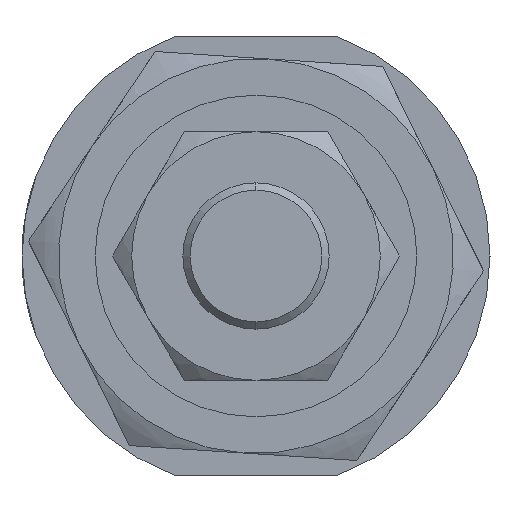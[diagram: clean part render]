
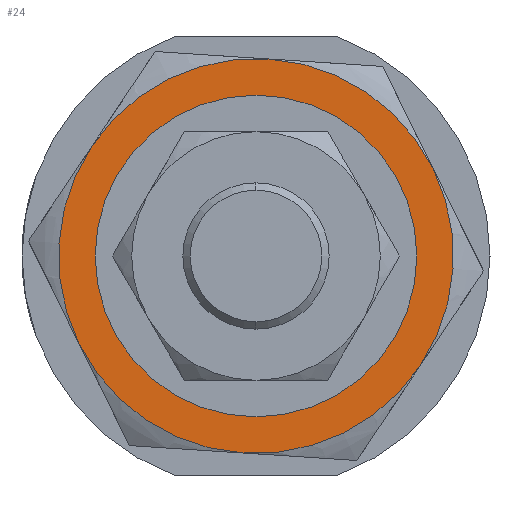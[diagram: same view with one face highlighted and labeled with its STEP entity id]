
A CAD part, left-side view. The second image highlights one B-rep face of the part: STEP entity #24.
In plain terms, the highlighted planar face has unit normal (-1, 0, 0) as drawn and (0, 0, -1) by its records, which use the part's own axes.
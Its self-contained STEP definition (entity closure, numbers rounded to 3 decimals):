
#8 = DIRECTION ( 'NONE',  ( 0., 0., 1. ) ) ;
#16 = ORIENTED_EDGE ( 'NONE', *, *, #1405, .F. ) ;
#21 = EDGE_CURVE ( 'NONE', #2953, #1337, #2882, .T. ) ;
#24 = ADVANCED_FACE ( 'NONE', ( #1241, #1309 ), #1019, .F. ) ;
#40 = CARTESIAN_POINT ( 'NONE',  ( 0., 0., -5. ) ) ;
#48 = ORIENTED_EDGE ( 'NONE', *, *, #198, .F. ) ;
#198 = EDGE_CURVE ( 'NONE', #446, #2953, #536, .T. ) ;
#201 = CARTESIAN_POINT ( 'NONE',  ( 0., 0., -5. ) ) ;
#215 = AXIS2_PLACEMENT_3D ( 'NONE', #804, #794, #1972 ) ;
#227 = CARTESIAN_POINT ( 'NONE',  ( 0., 0., -5. ) ) ;
#294 = CARTESIAN_POINT ( 'NONE',  ( -10., 0., -5. ) ) ;
#312 = DIRECTION ( 'NONE',  ( 1., 0., 0. ) ) ;
#389 = AXIS2_PLACEMENT_3D ( 'NONE', #2190, #790, #566 ) ;
#407 = CIRCLE ( 'NONE', #2964, 13.5 ) ;
#424 = DIRECTION ( 'NONE',  ( 1., 0., 0. ) ) ;
#446 = VERTEX_POINT ( 'NONE', #558 ) ;
#469 = DIRECTION ( 'NONE',  ( 0., 0., 1. ) ) ;
#504 = CARTESIAN_POINT ( 'NONE',  ( 0., 0., -5. ) ) ;
#534 = CARTESIAN_POINT ( 'NONE',  ( 0., 0., -5. ) ) ;
#536 = CIRCLE ( 'NONE', #1521, 13.5 ) ;
#544 = DIRECTION ( 'NONE',  ( 1., 0., 0. ) ) ;
#553 = CARTESIAN_POINT ( 'NONE',  ( -6.75, 11.691, -5. ) ) ;
#558 = CARTESIAN_POINT ( 'NONE',  ( -13.5, 0., -5. ) ) ;
#566 = DIRECTION ( 'NONE',  ( 1., 0., 0. ) ) ;
#617 = CIRCLE ( 'NONE', #1280, 13.5 ) ;
#623 = CARTESIAN_POINT ( 'NONE',  ( -6.75, -11.691, -5. ) ) ;
#660 = DIRECTION ( 'NONE',  ( 0., 0., 1. ) ) ;
#790 = DIRECTION ( 'NONE',  ( 0., 0., 1. ) ) ;
#794 = DIRECTION ( 'NONE',  ( 0., 0., 1. ) ) ;
#804 = CARTESIAN_POINT ( 'NONE',  ( 0., 0., -5. ) ) ;
#832 = AXIS2_PLACEMENT_3D ( 'NONE', #1098, #1998, #1980 ) ;
#869 = CARTESIAN_POINT ( 'NONE',  ( 6.75, -11.691, -5. ) ) ;
#903 = ORIENTED_EDGE ( 'NONE', *, *, #21, .F. ) ;
#965 = EDGE_CURVE ( 'NONE', #1337, #2815, #1833, .T. ) ;
#993 = AXIS2_PLACEMENT_3D ( 'NONE', #534, #1945, #544 ) ;
#1019 = PLANE ( 'NONE',  #1872 ) ;
#1098 = CARTESIAN_POINT ( 'NONE',  ( 0., 0., -5. ) ) ;
#1170 = EDGE_CURVE ( 'NONE', #2815, #2878, #617, .T. ) ;
#1218 = CARTESIAN_POINT ( 'NONE',  ( 10., 0., -5. ) ) ;
#1241 = FACE_BOUND ( 'NONE', #2667, .T. ) ;
#1280 = AXIS2_PLACEMENT_3D ( 'NONE', #40, #1929, #2384 ) ;
#1298 = ORIENTED_EDGE ( 'NONE', *, *, #2373, .T. ) ;
#1309 = FACE_OUTER_BOUND ( 'NONE', #1780, .T. ) ;
#1327 = CARTESIAN_POINT ( 'NONE',  ( 13.5, 0., -5. ) ) ;
#1337 = VERTEX_POINT ( 'NONE', #869 ) ;
#1405 = EDGE_CURVE ( 'NONE', #2173, #446, #407, .T. ) ;
#1465 = CARTESIAN_POINT ( 'NONE',  ( 0., 0., -5. ) ) ;
#1521 = AXIS2_PLACEMENT_3D ( 'NONE', #227, #8, #1874 ) ;
#1539 = EDGE_CURVE ( 'NONE', #1671, #1551, #2967, .T. ) ;
#1551 = VERTEX_POINT ( 'NONE', #1218 ) ;
#1671 = VERTEX_POINT ( 'NONE', #294 ) ;
#1705 = ORIENTED_EDGE ( 'NONE', *, *, #965, .F. ) ;
#1760 = CIRCLE ( 'NONE', #832, 10. ) ;
#1764 = EDGE_CURVE ( 'NONE', #2878, #2173, #2117, .T. ) ;
#1780 = EDGE_LOOP ( 'NONE', ( #2883, #1705, #903, #48, #16, #2499 ) ) ;
#1833 = CIRCLE ( 'NONE', #389, 13.5 ) ;
#1872 = AXIS2_PLACEMENT_3D ( 'NONE', #1465, #2632, #312 ) ;
#1873 = DIRECTION ( 'NONE',  ( 1., 0., 0. ) ) ;
#1874 = DIRECTION ( 'NONE',  ( 1., 0., 0. ) ) ;
#1929 = DIRECTION ( 'NONE',  ( 0., 0., 1. ) ) ;
#1945 = DIRECTION ( 'NONE',  ( 0., 0., 1. ) ) ;
#1972 = DIRECTION ( 'NONE',  ( 1., 0., 0. ) ) ;
#1980 = DIRECTION ( 'NONE',  ( 1., 0., 0. ) ) ;
#1998 = DIRECTION ( 'NONE',  ( 0., 0., 1. ) ) ;
#2117 = CIRCLE ( 'NONE', #215, 13.5 ) ;
#2153 = AXIS2_PLACEMENT_3D ( 'NONE', #504, #469, #1873 ) ;
#2173 = VERTEX_POINT ( 'NONE', #553 ) ;
#2190 = CARTESIAN_POINT ( 'NONE',  ( 0., 0., -5. ) ) ;
#2373 = EDGE_CURVE ( 'NONE', #1551, #1671, #1760, .T. ) ;
#2384 = DIRECTION ( 'NONE',  ( 1., 0., 0. ) ) ;
#2499 = ORIENTED_EDGE ( 'NONE', *, *, #1764, .F. ) ;
#2507 = CARTESIAN_POINT ( 'NONE',  ( 6.75, 11.691, -5. ) ) ;
#2632 = DIRECTION ( 'NONE',  ( 0., 0., 1. ) ) ;
#2667 = EDGE_LOOP ( 'NONE', ( #1298, #2739 ) ) ;
#2739 = ORIENTED_EDGE ( 'NONE', *, *, #1539, .T. ) ;
#2815 = VERTEX_POINT ( 'NONE', #1327 ) ;
#2878 = VERTEX_POINT ( 'NONE', #2507 ) ;
#2882 = CIRCLE ( 'NONE', #993, 13.5 ) ;
#2883 = ORIENTED_EDGE ( 'NONE', *, *, #1170, .F. ) ;
#2953 = VERTEX_POINT ( 'NONE', #623 ) ;
#2964 = AXIS2_PLACEMENT_3D ( 'NONE', #201, #660, #424 ) ;
#2967 = CIRCLE ( 'NONE', #2153, 10. ) ;
